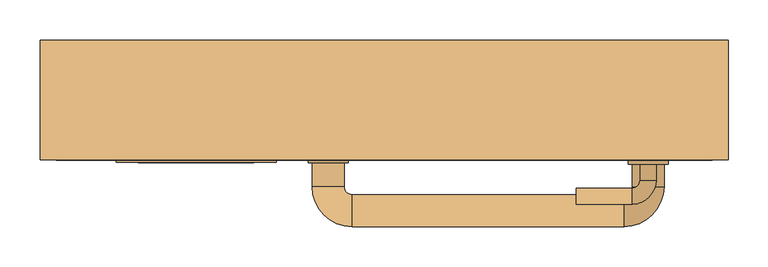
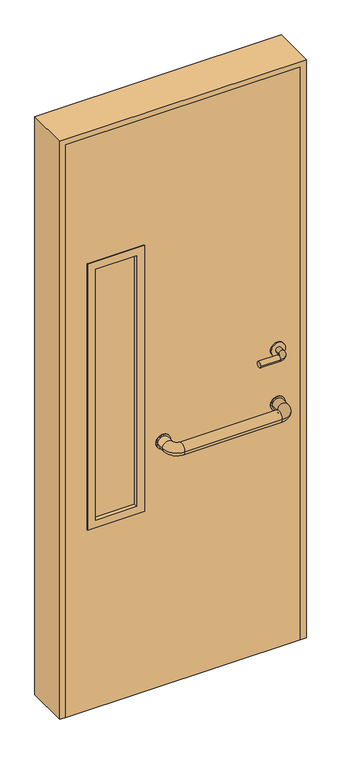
"""IFC4 building model written with IfcOpenShell, lengths in millimetres: door geometry, Porta area administrativa : Porta area administrativa."""

from ifc_helpers import new_model, si_unit, point, frame, frame_2d, origin, place, context, project, spatial, polyline, circle_curve, ellipse_curve, trimmed, segment, composite_curve, outline, extrude, faceted_brep, source, transform, mapped, element, save
from ifc_brep_helpers import plane_surface, cylinder_surface, revolved_surface, advanced_brep


def door_2b58ae42(model_context):
    return source(origin(), model_context, "Body", "SolidModel", [
        extrude(outline(composite_curve([segment(trimmed(circle_curve(frame_2d((900.0, -70.0)), 25.0), [point((900.0, -95.0))], [point((900.0, -45.0))], False, "CARTESIAN"), True, "CONTINUOUS"), segment(trimmed(circle_curve(frame_2d((900.0, -70.0)), 25.0), [point((900.0, -45.0))], [point((900.0, -95.0))], False, "CARTESIAN"), True, "CONTINUOUS")], self_intersect=False)), frame((0.0, -78.0, 0.0), z_axis=(0.0, 1.0, 0.0), x_axis=(0.0, 0.0, 1.0)), (0.0, 0.0, 1.0), 3.0),
        extrude(outline(composite_curve([segment(trimmed(circle_curve(frame_2d((900.0, 330.0)), 25.0), [point((900.0, 305.0))], [point((900.0, 355.0))], False, "CARTESIAN"), True, "CONTINUOUS"), segment(trimmed(circle_curve(frame_2d((900.0, 330.0)), 25.0), [point((900.0, 355.0))], [point((900.0, 305.0))], False, "CARTESIAN"), True, "CONTINUOUS")], self_intersect=False)), frame((0.0, -78.0, 0.0), z_axis=(0.0, 1.0, 0.0), x_axis=(0.0, 0.0, 1.0)), (0.0, 0.0, 1.0), 3.0),
        advanced_brep(
        [(310.0, -78.0, 900.0), (350.0, -78.0, 900.0), (310.0, -108.0, 900.0), (350.0, -108.0, 900.0), (300.0, -158.0, 900.0), (300.0, -118.0, 900.0), (-40.0, -118.0, 900.0), (-40.0, -158.0, 900.0), (-90.0, -108.0, 900.0), (-50.0, -108.0, 900.0), (-50.0, -78.0, 900.0), (-90.0, -78.0, 900.0)],
        [
            (0, 1, circle_curve(frame((330.0, -78.0, 900.0), z_axis=(0.0, 1.0, 0.0), x_axis=(1.0, 0.0, 0.0)), 20.0)),
            (1, 0, circle_curve(frame((330.0, -78.0, 900.0), z_axis=(0.0, 1.0, 0.0), x_axis=(1.0, 0.0, 0.0)), 20.0)),
            (0, 2),
            (2, 3, circle_curve(frame((330.0, -108.0, 900.0), z_axis=(0.0, 1.0, 0.0), x_axis=(1.0, 0.0, 0.0)), 20.0)),
            (3, 1),
            (3, 2, circle_curve(frame((330.0, -108.0, 900.0), z_axis=(0.0, 1.0, 0.0), x_axis=(1.0, 0.0, 0.0)), 20.0)),
            (4, 3, circle_curve(frame((300.0, -108.0, 900.0), z_axis=(0.0, 0.0, 1.0), x_axis=(1.0, 0.0, 0.0)), 50.0)),
            (2, 5, circle_curve(frame((300.0, -108.0, 900.0), z_axis=(0.0, 0.0, -1.0), x_axis=(1.0, 0.0, 0.0)), 10.0)),
            (5, 4, circle_curve(frame((300.0, -138.0, 900.0), z_axis=(1.0, 0.0, 0.0), x_axis=(0.0, -1.0, 0.0)), 20.0)),
            (4, 5, circle_curve(frame((300.0, -138.0, 900.0), z_axis=(1.0, 0.0, 0.0), x_axis=(0.0, -1.0, 0.0)), 20.0)),
            (5, 6),
            (6, 7, circle_curve(frame((-40.0, -138.0, 900.0), z_axis=(1.0, 0.0, 0.0), x_axis=(0.0, -1.0, 0.0)), 20.0)),
            (7, 4),
            (7, 6, circle_curve(frame((-40.0, -138.0, 900.0), z_axis=(1.0, 0.0, 0.0), x_axis=(0.0, -1.0, 0.0)), 20.0)),
            (8, 7, circle_curve(frame((-40.0, -108.0, 900.0), z_axis=(0.0, 0.0, 1.0), x_axis=(0.0, -1.0, 0.0)), 50.0)),
            (6, 9, circle_curve(frame((-40.0, -108.0, 900.0), z_axis=(0.0, 0.0, -1.0), x_axis=(0.0, -1.0, 0.0)), 10.0)),
            (9, 8, circle_curve(frame((-70.0, -108.0, 900.0), z_axis=(0.0, -1.0, 0.0), x_axis=(-1.0, 0.0, 0.0)), 20.0)),
            (8, 9, circle_curve(frame((-70.0, -108.0, 900.0), z_axis=(0.0, -1.0, 0.0), x_axis=(-1.0, 0.0, 0.0)), 20.0)),
            (10, 11, circle_curve(frame((-70.0, -78.0, 900.0), z_axis=(0.0, 1.0, 0.0), x_axis=(-1.0, 0.0, 0.0)), 20.0)),
            (11, 10, circle_curve(frame((-70.0, -78.0, 900.0), z_axis=(0.0, 1.0, 0.0), x_axis=(-1.0, 0.0, 0.0)), 20.0)),
            (9, 10),
            (11, 8),
        ],
        [
            plane_surface(frame((330.0, -78.0, 900.0), z_axis=(0.0, 1.0, 0.0), x_axis=(0.0, 0.0, 1.0))),
            cylinder_surface(frame((330.0, -78.0, 900.0), z_axis=(0.0, 1.0, 0.0), x_axis=(1.0, 0.0, 0.0)), 20.0),
            revolved_surface(trimmed(ellipse_curve(frame((330.0, -108.0, 900.0), z_axis=(0.0, 1.0, 0.0), x_axis=(1.0, 0.0, 0.0)), 20.0, 20.0), [point((310.0, -108.0, 900.0))], [point((350.0, -108.0, 900.0))], True, "CARTESIAN"), (300.0, -108.0, 900.0), (0.0, 0.0, -1.0)),
            revolved_surface(trimmed(ellipse_curve(frame((330.0, -108.0, 900.0), z_axis=(0.0, 1.0, 0.0), x_axis=(1.0, 0.0, 0.0)), 20.0, 20.0), [point((350.0, -108.0, 900.0))], [point((310.0, -108.0, 900.0))], True, "CARTESIAN"), (300.0, -108.0, 900.0), (0.0, 0.0, -1.0)),
            cylinder_surface(frame((300.0, -138.0, 900.0), z_axis=(1.0, 0.0, 0.0), x_axis=(0.0, -1.0, 0.0)), 20.0),
            revolved_surface(trimmed(ellipse_curve(frame((-40.0, -138.0, 900.0), z_axis=(1.0, 0.0, 0.0), x_axis=(0.0, -1.0, 0.0)), 20.0, 20.0), [point((-40.0, -118.0, 900.0))], [point((-40.0, -158.0, 900.0))], True, "CARTESIAN"), (-40.0, -108.0, 900.0), (0.0, 0.0, -1.0)),
            revolved_surface(trimmed(ellipse_curve(frame((-40.0, -138.0, 900.0), z_axis=(1.0, 0.0, 0.0), x_axis=(0.0, -1.0, 0.0)), 20.0, 20.0), [point((-40.0, -158.0, 900.0))], [point((-40.0, -118.0, 900.0))], True, "CARTESIAN"), (-40.0, -108.0, 900.0), (0.0, 0.0, -1.0)),
            plane_surface(frame((-70.0, -78.0, 900.0), z_axis=(0.0, 1.0, 0.0), x_axis=(0.0, 0.0, 1.0))),
            cylinder_surface(frame((-70.0, -108.0, 900.0), z_axis=(0.0, -1.0, 0.0), x_axis=(-1.0, 0.0, 0.0)), 20.0),
        ],
        [
            (0, [[1, 2]]),
            (1, [[-1, 3, 4, 5]]),
            (1, [[-2, -5, 6, -3]]),
            (2, [[7, -4, 8, 9]]),
            (3, [[-8, -6, -7, 10]]),
            (4, [[-9, 11, 12, 13]]),
            (4, [[-10, -13, 14, -11]]),
            (5, [[15, -12, 16, 17]]),
            (6, [[-16, -14, -15, 18]]),
            (7, [[19, 20]]),
            (8, [[-17, 21, -20, 22]]),
            (8, [[-18, -22, -19, -21]]),
        ],
    ),
        extrude(outline(composite_curve([segment(trimmed(circle_curve(frame_2d((900.0, -70.0)), 25.0), [point((900.0, -95.0))], [point((900.0, -45.0))], False, "CARTESIAN"), True, "CONTINUOUS"), segment(trimmed(circle_curve(frame_2d((900.0, -70.0)), 25.0), [point((900.0, -45.0))], [point((900.0, -95.0))], False, "CARTESIAN"), True, "CONTINUOUS")], self_intersect=False)), frame((0.0, -45.0, 0.0), z_axis=(0.0, 1.0, 0.0), x_axis=(0.0, 0.0, 1.0)), (0.0, 0.0, 1.0), 3.0),
        extrude(outline(composite_curve([segment(trimmed(circle_curve(frame_2d((900.0, 330.0)), 25.0), [point((900.0, 305.0))], [point((900.0, 355.0))], False, "CARTESIAN"), True, "CONTINUOUS"), segment(trimmed(circle_curve(frame_2d((900.0, 330.0)), 25.0), [point((900.0, 355.0))], [point((900.0, 305.0))], False, "CARTESIAN"), True, "CONTINUOUS")], self_intersect=False)), frame((0.0, -45.0, 0.0), z_axis=(0.0, 1.0, 0.0), x_axis=(0.0, 0.0, 1.0)), (0.0, 0.0, 1.0), 3.0),
        advanced_brep(
        [(310.0, -42.0, 900.0), (350.0, -42.0, 900.0), (350.0, -12.0, 900.0), (310.0, -12.0, 900.0), (300.0, 38.0, 900.0), (300.0, -2.0, 900.0), (-40.0, 38.0, 900.0), (-40.0, -2.0, 900.0), (-90.0, -12.0, 900.0), (-50.0, -12.0, 900.0), (-50.0, -42.0, 900.0), (-90.0, -42.0, 900.0)],
        [
            (0, 1, circle_curve(frame((330.0, -42.0, 900.0), z_axis=(0.0, -1.0, 0.0), x_axis=(1.0, 0.0, 0.0)), 20.0)),
            (1, 0, circle_curve(frame((330.0, -42.0, 900.0), z_axis=(0.0, -1.0, 0.0), x_axis=(1.0, 0.0, 0.0)), 20.0)),
            (1, 2),
            (2, 3, circle_curve(frame((330.0, -12.0, 900.0), z_axis=(0.0, -1.0, 0.0), x_axis=(1.0, 0.0, 0.0)), 20.0)),
            (3, 0),
            (3, 2, circle_curve(frame((330.0, -12.0, 900.0), z_axis=(0.0, -1.0, 0.0), x_axis=(1.0, 0.0, 0.0)), 20.0)),
            (4, 5, circle_curve(frame((300.0, 18.0, 900.0), z_axis=(1.0, 0.0, 0.0), x_axis=(0.0, 1.0, 0.0)), 20.0)),
            (5, 3, circle_curve(frame((300.0, -12.0, 900.0), z_axis=(0.0, 0.0, -1.0), x_axis=(1.0, 0.0, 0.0)), 10.0)),
            (2, 4, circle_curve(frame((300.0, -12.0, 900.0), z_axis=(0.0, 0.0, 1.0), x_axis=(1.0, 0.0, 0.0)), 50.0)),
            (5, 4, circle_curve(frame((300.0, 18.0, 900.0), z_axis=(1.0, 0.0, 0.0), x_axis=(0.0, 1.0, 0.0)), 20.0)),
            (4, 6),
            (6, 7, circle_curve(frame((-40.0, 18.0, 900.0), z_axis=(1.0, 0.0, 0.0), x_axis=(0.0, 1.0, 0.0)), 20.0)),
            (7, 5),
            (7, 6, circle_curve(frame((-40.0, 18.0, 900.0), z_axis=(1.0, 0.0, 0.0), x_axis=(0.0, 1.0, 0.0)), 20.0)),
            (8, 9, circle_curve(frame((-70.0, -12.0, 900.0), z_axis=(0.0, 1.0, 0.0), x_axis=(-1.0, 0.0, 0.0)), 20.0)),
            (9, 7, circle_curve(frame((-40.0, -12.0, 900.0), z_axis=(0.0, 0.0, -1.0), x_axis=(0.0, 1.0, 0.0)), 10.0)),
            (6, 8, circle_curve(frame((-40.0, -12.0, 900.0), z_axis=(0.0, 0.0, 1.0), x_axis=(0.0, 1.0, 0.0)), 50.0)),
            (9, 8, circle_curve(frame((-70.0, -12.0, 900.0), z_axis=(0.0, 1.0, 0.0), x_axis=(-1.0, 0.0, 0.0)), 20.0)),
            (10, 11, circle_curve(frame((-70.0, -42.0, 900.0), z_axis=(0.0, -1.0, 0.0), x_axis=(-1.0, 0.0, 0.0)), 20.0)),
            (11, 10, circle_curve(frame((-70.0, -42.0, 900.0), z_axis=(0.0, -1.0, 0.0), x_axis=(-1.0, 0.0, 0.0)), 20.0)),
            (8, 11),
            (10, 9),
        ],
        [
            plane_surface(frame((330.0, -42.0, 900.0), z_axis=(0.0, -1.0, 0.0), x_axis=(0.0, 0.0, 1.0))),
            cylinder_surface(frame((330.0, -42.0, 900.0), z_axis=(0.0, -1.0, 0.0), x_axis=(1.0, 0.0, 0.0)), 20.0),
            revolved_surface(trimmed(ellipse_curve(frame((330.0, -12.0, 900.0), z_axis=(0.0, 1.0, 0.0), x_axis=(1.0, 0.0, 0.0)), 20.0, 20.0), [point((310.0, -12.0, 900.0))], [point((350.0, -12.0, 900.0))], True, "CARTESIAN"), (300.0, -12.0, 900.0), (0.0, 0.0, -1.0)),
            revolved_surface(trimmed(ellipse_curve(frame((330.0, -12.0, 900.0), z_axis=(0.0, 1.0, 0.0), x_axis=(1.0, 0.0, 0.0)), 20.0, 20.0), [point((350.0, -12.0, 900.0))], [point((310.0, -12.0, 900.0))], True, "CARTESIAN"), (300.0, -12.0, 900.0), (0.0, 0.0, -1.0)),
            cylinder_surface(frame((300.0, 18.0, 900.0), z_axis=(1.0, 0.0, 0.0), x_axis=(0.0, 1.0, 0.0)), 20.0),
            revolved_surface(trimmed(ellipse_curve(frame((-40.0, 18.0, 900.0), z_axis=(-1.0, 0.0, 0.0), x_axis=(0.0, 1.0, 0.0)), 20.0, 20.0), [point((-40.0, -2.0, 900.0))], [point((-40.0, 38.0, 900.0))], True, "CARTESIAN"), (-40.0, -12.0, 900.0), (0.0, 0.0, -1.0)),
            revolved_surface(trimmed(ellipse_curve(frame((-40.0, 18.0, 900.0), z_axis=(-1.0, 0.0, 0.0), x_axis=(0.0, 1.0, 0.0)), 20.0, 20.0), [point((-40.0, 38.0, 900.0))], [point((-40.0, -2.0, 900.0))], True, "CARTESIAN"), (-40.0, -12.0, 900.0), (0.0, 0.0, -1.0)),
            plane_surface(frame((-70.0, -42.0, 900.0), z_axis=(0.0, -1.0, 0.0), x_axis=(0.0, 0.0, 1.0))),
            cylinder_surface(frame((-70.0, -12.0, 900.0), z_axis=(0.0, 1.0, 0.0), x_axis=(-1.0, 0.0, 0.0)), 20.0),
        ],
        [
            (0, [[1, 2]]),
            (1, [[3, 4, 5, -2]]),
            (1, [[-5, 6, -3, -1]]),
            (2, [[7, 8, -4, 9]]),
            (3, [[10, -9, -6, -8]]),
            (4, [[11, 12, 13, -7]]),
            (4, [[-13, 14, -11, -10]]),
            (5, [[15, 16, -12, 17]]),
            (6, [[18, -17, -14, -16]]),
            (7, [[19, 20]]),
            (8, [[21, -19, 22, -15]]),
            (8, [[-22, -20, -21, -18]]),
        ],
    ),
        extrude(outline(composite_curve([segment(trimmed(circle_curve(frame_2d((1100.0, 330.0)), 25.0), [point((1100.0, 305.0))], [point((1100.0, 355.0))], False, "CARTESIAN"), True, "CONTINUOUS"), segment(trimmed(circle_curve(frame_2d((1100.0, 330.0)), 25.0), [point((1100.0, 355.0))], [point((1100.0, 305.0))], False, "CARTESIAN"), True, "CONTINUOUS")], self_intersect=False)), frame((0.0, -80.0, 0.0), z_axis=(0.0, 1.0, 0.0), x_axis=(0.0, 0.0, 1.0)), (0.0, 0.0, 1.0), 5.0),
        advanced_brep(
        [(320.0, -80.0, 1100.0), (340.0, -80.0, 1100.0), (320.0, -100.0, 1100.0), (340.0, -100.0, 1100.0), (310.0, -130.0, 1100.0), (310.0, -110.0, 1100.0), (240.0, -110.0, 1100.0), (240.0, -130.0, 1100.0)],
        [
            (0, 1, circle_curve(frame((330.0, -80.0, 1100.0), z_axis=(0.0, 1.0, 0.0), x_axis=(1.0, 0.0, 0.0)), 10.0)),
            (1, 0, circle_curve(frame((330.0, -80.0, 1100.0), z_axis=(0.0, 1.0, 0.0), x_axis=(1.0, 0.0, 0.0)), 10.0)),
            (0, 2),
            (2, 3, circle_curve(frame((330.0, -100.0, 1100.0), z_axis=(0.0, 1.0, 0.0), x_axis=(1.0, 0.0, 0.0)), 10.0)),
            (3, 1),
            (3, 2, circle_curve(frame((330.0, -100.0, 1100.0), z_axis=(0.0, 1.0, 0.0), x_axis=(1.0, 0.0, 0.0)), 10.0)),
            (4, 3, circle_curve(frame((310.0, -100.0, 1100.0), z_axis=(0.0, 0.0, 1.0), x_axis=(1.0, 0.0, 0.0)), 30.0)),
            (2, 5, circle_curve(frame((310.0, -100.0, 1100.0), z_axis=(0.0, 0.0, -1.0), x_axis=(1.0, 0.0, 0.0)), 10.0)),
            (5, 4, circle_curve(frame((310.0, -120.0, 1100.0), z_axis=(1.0, 0.0, 0.0), x_axis=(0.0, -1.0, 0.0)), 10.0)),
            (4, 5, circle_curve(frame((310.0, -120.0, 1100.0), z_axis=(1.0, 0.0, 0.0), x_axis=(0.0, -1.0, 0.0)), 10.0)),
            (6, 7, circle_curve(frame((240.0, -120.0, 1100.0), z_axis=(-1.0, 0.0, 0.0), x_axis=(0.0, -1.0, 0.0)), 10.0)),
            (7, 6, circle_curve(frame((240.0, -120.0, 1100.0), z_axis=(-1.0, 0.0, 0.0), x_axis=(0.0, -1.0, 0.0)), 10.0)),
            (5, 6),
            (7, 4),
        ],
        [
            plane_surface(frame((330.0, -80.0, 1100.0), z_axis=(0.0, 1.0, 0.0), x_axis=(0.0, 0.0, 1.0))),
            cylinder_surface(frame((330.0, -80.0, 1100.0), z_axis=(0.0, 1.0, 0.0), x_axis=(1.0, 0.0, 0.0)), 10.0),
            revolved_surface(trimmed(ellipse_curve(frame((330.0, -100.0, 1100.0), z_axis=(0.0, 1.0, 0.0), x_axis=(1.0, 0.0, 0.0)), 10.0, 10.0), [point((320.0, -100.0, 1100.0))], [point((340.0, -100.0, 1100.0))], True, "CARTESIAN"), (310.0, -100.0, 1100.0), (0.0, 0.0, -1.0)),
            revolved_surface(trimmed(ellipse_curve(frame((330.0, -100.0, 1100.0), z_axis=(0.0, 1.0, 0.0), x_axis=(1.0, 0.0, 0.0)), 10.0, 10.0), [point((340.0, -100.0, 1100.0))], [point((320.0, -100.0, 1100.0))], True, "CARTESIAN"), (310.0, -100.0, 1100.0), (0.0, 0.0, -1.0)),
            plane_surface(frame((240.0, -120.0, 1100.0), z_axis=(-1.0, 0.0, 0.0), x_axis=(0.0, 0.0, 1.0))),
            cylinder_surface(frame((310.0, -120.0, 1100.0), z_axis=(1.0, 0.0, 0.0), x_axis=(0.0, -1.0, 0.0)), 10.0),
        ],
        [
            (0, [[1, 2]]),
            (1, [[-1, 3, 4, 5]]),
            (1, [[-2, -5, 6, -3]]),
            (2, [[7, -4, 8, 9]]),
            (3, [[-8, -6, -7, 10]]),
            (4, [[11, 12]]),
            (5, [[-9, 13, -12, 14]]),
            (5, [[-10, -14, -11, -13]]),
        ],
    ),
        extrude(outline(composite_curve([segment(trimmed(circle_curve(frame_2d((1100.0, 330.0)), 25.0), [point((1100.0, 305.0))], [point((1100.0, 355.0))], False, "CARTESIAN"), True, "CONTINUOUS"), segment(trimmed(circle_curve(frame_2d((1100.0, 330.0)), 25.0), [point((1100.0, 355.0))], [point((1100.0, 305.0))], False, "CARTESIAN"), True, "CONTINUOUS")], self_intersect=False)), frame((0.0, -45.0, 0.0), z_axis=(0.0, 1.0, 0.0), x_axis=(0.0, 0.0, 1.0)), (0.0, 0.0, 1.0), 5.0),
        advanced_brep(
        [(320.0, -40.0, 1100.0), (340.0, -40.0, 1100.0), (340.0, -20.0, 1100.0), (320.0, -20.0, 1100.0), (310.0, 10.0, 1100.0), (310.0, -10.0, 1100.0), (240.0, -10.0, 1100.0), (240.0, 10.0, 1100.0)],
        [
            (0, 1, circle_curve(frame((330.0, -40.0, 1100.0), z_axis=(0.0, -1.0, 0.0), x_axis=(1.0, 0.0, 0.0)), 10.0)),
            (1, 0, circle_curve(frame((330.0, -40.0, 1100.0), z_axis=(0.0, -1.0, 0.0), x_axis=(1.0, 0.0, 0.0)), 10.0)),
            (1, 2),
            (2, 3, circle_curve(frame((330.0, -20.0, 1100.0), z_axis=(0.0, -1.0, 0.0), x_axis=(1.0, 0.0, 0.0)), 10.0)),
            (3, 0),
            (3, 2, circle_curve(frame((330.0, -20.0, 1100.0), z_axis=(0.0, -1.0, 0.0), x_axis=(1.0, 0.0, 0.0)), 10.0)),
            (4, 5, circle_curve(frame((310.0, 0.0, 1100.0), z_axis=(1.0, 0.0, 0.0), x_axis=(0.0, 1.0, 0.0)), 10.0)),
            (5, 3, circle_curve(frame((310.0, -20.0, 1100.0), z_axis=(0.0, 0.0, -1.0), x_axis=(1.0, 0.0, 0.0)), 10.0)),
            (2, 4, circle_curve(frame((310.0, -20.0, 1100.0), z_axis=(0.0, 0.0, 1.0), x_axis=(1.0, 0.0, 0.0)), 30.0)),
            (5, 4, circle_curve(frame((310.0, 0.0, 1100.0), z_axis=(1.0, 0.0, 0.0), x_axis=(0.0, 1.0, 0.0)), 10.0)),
            (6, 7, circle_curve(frame((240.0, 0.0, 1100.0), z_axis=(-1.0, 0.0, 0.0), x_axis=(0.0, 1.0, 0.0)), 10.0)),
            (7, 6, circle_curve(frame((240.0, 0.0, 1100.0), z_axis=(-1.0, 0.0, 0.0), x_axis=(0.0, 1.0, 0.0)), 10.0)),
            (4, 7),
            (6, 5),
        ],
        [
            plane_surface(frame((330.0, -40.0, 1100.0), z_axis=(0.0, -1.0, 0.0), x_axis=(0.0, 0.0, 1.0))),
            cylinder_surface(frame((330.0, -40.0, 1100.0), z_axis=(0.0, -1.0, 0.0), x_axis=(1.0, 0.0, 0.0)), 10.0),
            revolved_surface(trimmed(ellipse_curve(frame((330.0, -20.0, 1100.0), z_axis=(0.0, 1.0, 0.0), x_axis=(1.0, 0.0, 0.0)), 10.0, 10.0), [point((320.0, -20.0, 1100.0))], [point((340.0, -20.0, 1100.0))], True, "CARTESIAN"), (310.0, -20.0, 1100.0), (0.0, 0.0, -1.0)),
            revolved_surface(trimmed(ellipse_curve(frame((330.0, -20.0, 1100.0), z_axis=(0.0, 1.0, 0.0), x_axis=(1.0, 0.0, 0.0)), 10.0, 10.0), [point((340.0, -20.0, 1100.0))], [point((320.0, -20.0, 1100.0))], True, "CARTESIAN"), (310.0, -20.0, 1100.0), (0.0, 0.0, -1.0)),
            plane_surface(frame((240.0, 0.0, 1100.0), z_axis=(-1.0, 0.0, 0.0), x_axis=(0.0, 0.0, 1.0))),
            cylinder_surface(frame((310.0, 0.0, 1100.0), z_axis=(1.0, 0.0, 0.0), x_axis=(0.0, 1.0, 0.0)), 10.0),
        ],
        [
            (0, [[1, 2]]),
            (1, [[3, 4, 5, -2]]),
            (1, [[-5, 6, -3, -1]]),
            (2, [[7, 8, -4, 9]]),
            (3, [[10, -9, -6, -8]]),
            (4, [[11, 12]]),
            (5, [[13, -11, 14, -7]]),
            (5, [[-14, -12, -13, -10]]),
        ],
    ),
        faceted_brep([(-430.0, 75.0, 0.0), (-400.0, 75.0, 0.0), (-400.0, -45.0, 0.0), (-410.0, -45.0, 0.0), (-410.0, -75.0, 0.0), (-430.0, -75.0, 0.0), (-430.0, 75.0, 2130.0), (430.0, 75.0, 2130.0), (430.0, 75.0, 0.0), (400.0, 75.0, 0.0), (400.0, 75.0, 2100.0), (-400.0, 75.0, 2100.0), (-400.0, -45.0, 2100.0), (400.0, -45.0, 2100.0), (400.0, -45.0, 0.0), (410.0, -45.0, 0.0), (410.0, -45.0, 2110.0), (-410.0, -45.0, 2110.0), (-410.0, -75.0, 2110.0), (410.0, -75.0, 2110.0), (410.0, -75.0, 0.0), (430.0, -75.0, 0.0), (430.0, -75.0, 2130.0), (-430.0, -75.0, 2130.0)], [[[0, 1, 2, 3, 4, 5]], [[1, 0, 6, 7, 8, 9, 10, 11]], [[2, 1, 11, 12]], [[3, 2, 12, 13, 14, 15, 16, 17]], [[4, 3, 17, 18]], [[5, 4, 18, 19, 20, 21, 22, 23]], [[0, 5, 23, 6]], [[13, 10, 9, 14]], [[8, 21, 20, 15, 14, 9]], [[19, 16, 15, 20]], [[7, 22, 21, 8]], [[12, 11, 10, 13]], [[18, 17, 16, 19]], [[6, 23, 22, 7]]]),
        extrude(outline(polyline([(-163.0, -63.4643825), (-307.0, -63.4643825), (-307.0, -56.5356175), (-163.0, -56.5356175), (-163.0, -63.4643825)])), frame((0.0, 0.0, 693.0), z_axis=(0.0, 0.0, 1.0), x_axis=(1.0, 0.0, 0.0)), (0.0, 0.0, 1.0), 924.0),
        faceted_brep([(-335.0, -42.0, 1645.0), (-335.0, -45.0, 1645.0), (-135.0, -45.0, 1645.0), (-135.0, -42.0, 1645.0), (-307.0, -78.0, 1617.0), (-307.0, -42.0, 1617.0), (-163.0, -42.0, 1617.0), (-163.0, -78.0, 1617.0), (-335.0, -75.0, 1645.0), (-335.0, -78.0, 1645.0), (-135.0, -78.0, 1645.0), (-135.0, -75.0, 1645.0), (-310.0, -45.0, 1620.0), (-310.0, -75.0, 1620.0), (-160.0, -75.0, 1620.0), (-160.0, -45.0, 1620.0), (-135.0, -45.0, 665.0), (-135.0, -42.0, 665.0), (-163.0, -42.0, 693.0), (-163.0, -78.0, 693.0), (-135.0, -78.0, 665.0), (-135.0, -75.0, 665.0), (-160.0, -75.0, 690.0), (-160.0, -45.0, 690.0), (-335.0, -45.0, 665.0), (-335.0, -42.0, 665.0), (-307.0, -42.0, 693.0), (-307.0, -78.0, 693.0), (-335.0, -78.0, 665.0), (-335.0, -75.0, 665.0), (-310.0, -75.0, 690.0), (-310.0, -45.0, 690.0)], [[[0, 1, 2, 3]], [[4, 5, 6, 7]], [[8, 9, 10, 11]], [[12, 13, 14, 15]], [[3, 2, 16, 17]], [[7, 6, 18, 19]], [[11, 10, 20, 21]], [[15, 14, 22, 23]], [[17, 16, 24, 25]], [[19, 18, 26, 27]], [[21, 20, 28, 29]], [[23, 22, 30, 31]], [[1, 24, 16, 2], [15, 23, 31, 12]], [[25, 24, 1, 0]], [[3, 17, 25, 0], [5, 26, 18, 6]], [[27, 26, 5, 4]], [[9, 28, 20, 10], [7, 19, 27, 4]], [[29, 28, 9, 8]], [[11, 21, 29, 8], [13, 30, 22, 14]], [[31, 30, 13, 12]]]),
        extrude(outline(polyline([(0.0, 410.0), (2110.0, 410.0), (2110.0, -410.0), (0.0, -410.0), (0.0, 410.0)]), holes=[polyline([(690.0, -160.0), (690.0, -310.0), (1620.0, -310.0), (1620.0, -160.0), (690.0, -160.0)])]), frame((0.0, -75.0, 0.0), z_axis=(0.0, 1.0, 0.0), x_axis=(0.0, 0.0, 1.0)), (0.0, 0.0, 1.0), 30.0),
        extrude(outline(polyline([(150.0, -42.0), (300.0, -42.0), (300.0, -45.0), (150.0, -45.0), (150.0, -42.0)])), frame((0.0, 0.0, 1550.0), z_axis=(0.0, 0.0, 1.0), x_axis=(1.0, 0.0, 0.0)), (0.0, 0.0, 1.0), 550.0),
    ])


if __name__ == "__main__":
    model = new_model("IFC4")
    model_context = context("Model", 3, world=origin())
    ifc_project = project(units=[si_unit("LENGTHUNIT", "METRE", prefix="MILLI")], contexts=[model_context])
    site = spatial("IfcSite", under=ifc_project)
    building = spatial("IfcBuilding", under=site)
    placement = place(None, origin())
    door_shape = door_2b58ae42(model_context)
    element("IfcDoor", 1, ObjectType="Porta area administrativa : Porta area administrativa", at=placement, inside=building, context=model_context, shape_type="MappedRepresentation", body=[
        mapped(door_shape, transform((0.0, 0.0, 0.0), x_axis=(1.0, 0.0, 0.0), y_axis=(0.0, 1.0, 0.0), z_axis=(0.0, 0.0, 1.0))),
    ])
    save(model, "model.ifc")
